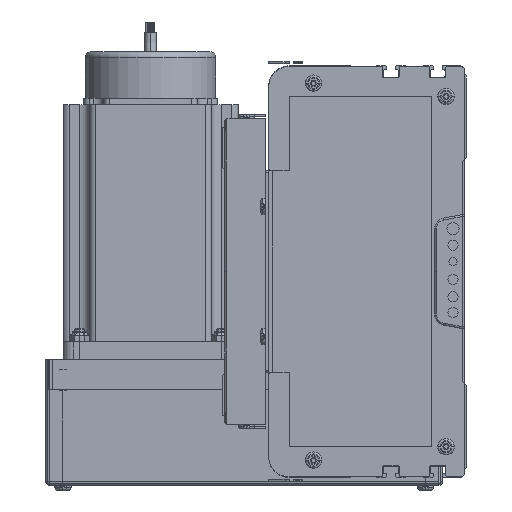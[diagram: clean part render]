
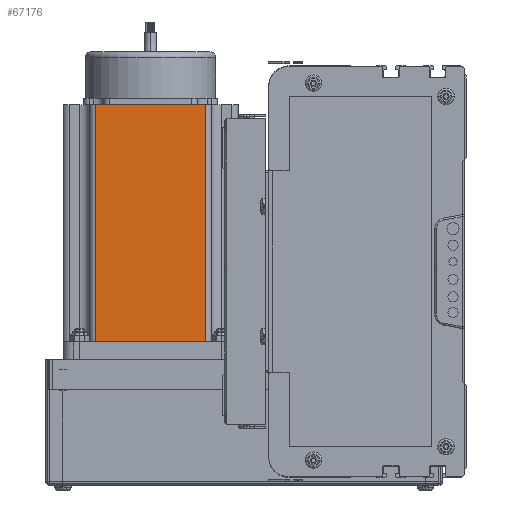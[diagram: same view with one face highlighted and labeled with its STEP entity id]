
A CAD part, left-side view. The second image highlights one B-rep face of the part: STEP entity #67176.
In plain terms, the highlighted planar face has unit normal (-1, 0, 0) as drawn and (0, -1, 0) by its records, which use the part's own axes.
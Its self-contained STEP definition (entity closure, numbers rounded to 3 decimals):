
#67176 = ADVANCED_FACE ( 'NONE', ( #109278 ), #109237, .F. ) ;
#67181 = ORIENTED_EDGE ( 'NONE', *, *, #68768, .T. ) ;
#67199 = ORIENTED_EDGE ( 'NONE', *, *, #68796, .T. ) ;
#67230 = EDGE_LOOP ( 'NONE', ( #68762, #67181, #68792, #67199 ) ) ;
#67232 = EDGE_CURVE ( 'NONE', #68831, #68832, #109362, .T. ) ;
#68762 = ORIENTED_EDGE ( 'NONE', *, *, #67232, .T. ) ;
#68768 = EDGE_CURVE ( 'NONE', #68832, #68772, #109632, .T. ) ;
#68772 = VERTEX_POINT ( 'NONE', #109638 ) ;
#68779 = EDGE_CURVE ( 'NONE', #68782, #68772, #109627, .T. ) ;
#68782 = VERTEX_POINT ( 'NONE', #109633 ) ;
#68792 = ORIENTED_EDGE ( 'NONE', *, *, #68779, .F. ) ;
#68796 = EDGE_CURVE ( 'NONE', #68782, #68831, #109653, .T. ) ;
#68831 = VERTEX_POINT ( 'NONE', #109697 ) ;
#68832 = VERTEX_POINT ( 'NONE', #109737 ) ;
#109237 = PLANE ( 'NONE',  #109315 ) ;
#109272 = CARTESIAN_POINT ( 'NONE',  ( 0., 0., 116.5 ) ) ;
#109278 = FACE_OUTER_BOUND ( 'NONE', #67230, .T. ) ;
#109279 = DIRECTION ( 'NONE',  ( 0., 0., 1. ) ) ;
#109280 = DIRECTION ( 'NONE',  ( 0., 1., 0. ) ) ;
#109315 = AXIS2_PLACEMENT_3D ( 'NONE', #109272, #109280, #109279 ) ;
#109361 = CARTESIAN_POINT ( 'NONE',  ( 0., 0., 0. ) ) ;
#109362 = LINE ( 'NONE', #109361, #109382 ) ;
#109381 = DIRECTION ( 'NONE',  ( 1., 0., 0. ) ) ;
#109382 = VECTOR ( 'NONE', #109381, 1000. ) ;
#109626 = CARTESIAN_POINT ( 'NONE',  ( 0., 0., 116.5 ) ) ;
#109627 = LINE ( 'NONE', #109626, #109684 ) ;
#109628 = DIRECTION ( 'NONE',  ( 0., 0., 1. ) ) ;
#109629 = VECTOR ( 'NONE', #109628, 1000. ) ;
#109630 = CARTESIAN_POINT ( 'NONE',  ( 69.74, 0., 116.5 ) ) ;
#109632 = LINE ( 'NONE', #109630, #109629 ) ;
#109633 = CARTESIAN_POINT ( 'NONE',  ( 16.16, 0., 116.5 ) ) ;
#109638 = CARTESIAN_POINT ( 'NONE',  ( 69.74, 0., 116.5 ) ) ;
#109653 = LINE ( 'NONE', #109720, #109717 ) ;
#109683 = DIRECTION ( 'NONE',  ( 1., 0., 0. ) ) ;
#109684 = VECTOR ( 'NONE', #109683, 1000. ) ;
#109697 = CARTESIAN_POINT ( 'NONE',  ( 16.16, 0., 0. ) ) ;
#109716 = DIRECTION ( 'NONE',  ( 0., 0., -1. ) ) ;
#109717 = VECTOR ( 'NONE', #109716, 1000. ) ;
#109720 = CARTESIAN_POINT ( 'NONE',  ( 16.16, 0., 116.5 ) ) ;
#109737 = CARTESIAN_POINT ( 'NONE',  ( 69.74, 0., 0. ) ) ;
